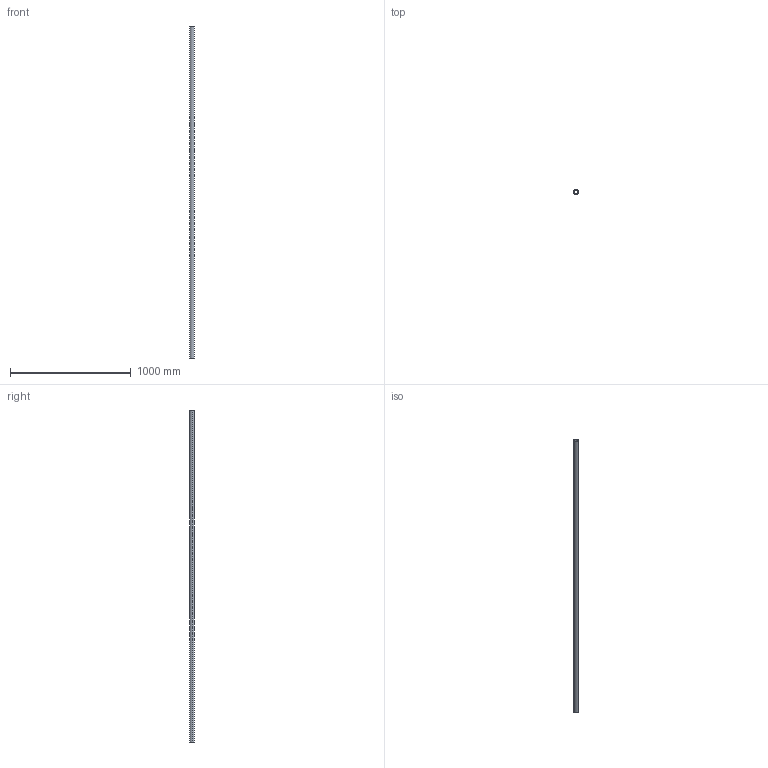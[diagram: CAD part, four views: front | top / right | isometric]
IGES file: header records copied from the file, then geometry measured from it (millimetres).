
Start section: SolidWorks IGES file using analytic representation for surfaces
Global section: file name: C:\Users\IanO\Desktop\L1771_v2\L1771.40_v2\L1771.40_v2_20230705_IGES\L1771.40-2750.igs; native system: SolidWorks 2019; preprocessor: SolidWorks 2019; author: IanO; date: 230705.161438; units: millimetre
Bounding box: 40 x 40 x 2750 mm (x, y, z)
Surface area: 588759.6 mm2 (no closed solid volume)
Topology: 0 solids, 0 shells, 6 faces, 272 edges, 272 vertices
Faces by surface type: revolution 4, bspline 2
